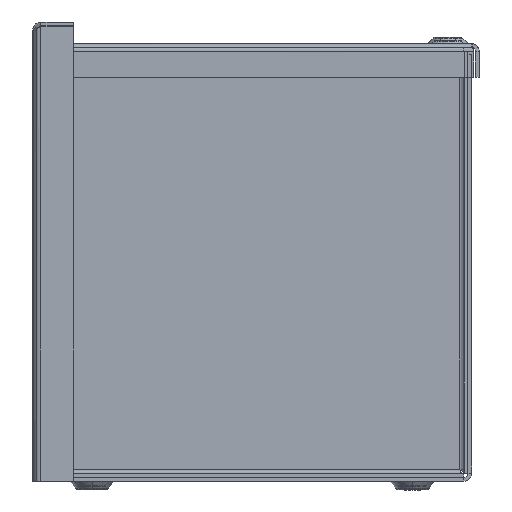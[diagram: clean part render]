
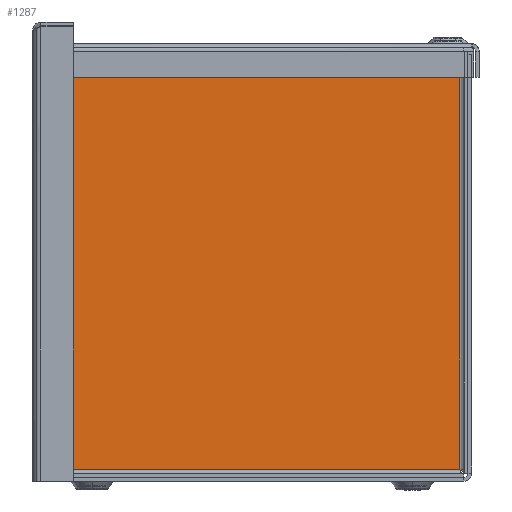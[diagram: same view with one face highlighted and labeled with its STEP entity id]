
A CAD part, left-side view. The second image highlights one B-rep face of the part: STEP entity #1287.
In plain terms, the highlighted planar face has unit normal (-1, 0, 0) as drawn and (0, 0, -1) by its records, which use the part's own axes.
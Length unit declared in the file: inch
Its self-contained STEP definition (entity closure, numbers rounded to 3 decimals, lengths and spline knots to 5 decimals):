
#1160 = EDGE_CURVE ( 'NONE', #1300, #1299, #3404, .T. ) ;
#1163 = ORIENTED_EDGE ( 'NONE', *, *, #2098, .F. ) ;
#1173 = ORIENTED_EDGE ( 'NONE', *, *, #1160, .F. ) ;
#1287 = ADVANCED_FACE ( 'NONE', ( #3715 ), #3714, .T. ) ;
#1288 = EDGE_LOOP ( 'NONE', ( #1291, #1295, #1173, #1163 ) ) ;
#1291 = ORIENTED_EDGE ( 'NONE', *, *, #1292, .F. ) ;
#1292 = EDGE_CURVE ( 'NONE', #1293, #1294, #3709, .T. ) ;
#1293 = VERTEX_POINT ( 'NONE', #3700 ) ;
#1294 = VERTEX_POINT ( 'NONE', #3699 ) ;
#1295 = ORIENTED_EDGE ( 'NONE', *, *, #1297, .F. ) ;
#1297 = EDGE_CURVE ( 'NONE', #1299, #1293, #3697, .T. ) ;
#1299 = VERTEX_POINT ( 'NONE', #3693 ) ;
#1300 = VERTEX_POINT ( 'NONE', #3692 ) ;
#2098 = EDGE_CURVE ( 'NONE', #1294, #1300, #5264, .T. ) ;
#3401 = DIRECTION ( 'NONE',  ( -1., 0., 0. ) ) ;
#3402 = VECTOR ( 'NONE', #3401, 39.37008 ) ;
#3403 = CARTESIAN_POINT ( 'NONE',  ( 3.87093, 3.798, 0. ) ) ;
#3404 = LINE ( 'NONE', #3403, #3402 ) ;
#3692 = CARTESIAN_POINT ( 'NONE',  ( 3.798, 3.798, 0. ) ) ;
#3693 = CARTESIAN_POINT ( 'NONE',  ( -3.798, 3.798, 0. ) ) ;
#3694 = DIRECTION ( 'NONE',  ( 0., -1., 0. ) ) ;
#3695 = VECTOR ( 'NONE', #3694, 39.37008 ) ;
#3696 = CARTESIAN_POINT ( 'NONE',  ( -3.798, 3.87093, 0. ) ) ;
#3697 = LINE ( 'NONE', #3696, #3695 ) ;
#3699 = CARTESIAN_POINT ( 'NONE',  ( 3.798, -3.798, 0. ) ) ;
#3700 = CARTESIAN_POINT ( 'NONE',  ( -3.798, -3.798, 0. ) ) ;
#3701 = DIRECTION ( 'NONE',  ( 1., 0., 0. ) ) ;
#3702 = VECTOR ( 'NONE', #3701, 39.37008 ) ;
#3703 = CARTESIAN_POINT ( 'NONE',  ( -3.87093, -3.798, 0. ) ) ;
#3709 = LINE ( 'NONE', #3703, #3702 ) ;
#3710 = DIRECTION ( 'NONE',  ( -1., 0., 0. ) ) ;
#3711 = DIRECTION ( 'NONE',  ( 0., 0., -1. ) ) ;
#3712 = CARTESIAN_POINT ( 'NONE',  ( -3.95, 3.95, 0. ) ) ;
#3713 = AXIS2_PLACEMENT_3D ( 'NONE', #3712, #3711, #3710 ) ;
#3714 = PLANE ( 'NONE',  #3713 ) ;
#3715 = FACE_OUTER_BOUND ( 'NONE', #1288, .T. ) ;
#5261 = DIRECTION ( 'NONE',  ( 0., 1., 0. ) ) ;
#5262 = VECTOR ( 'NONE', #5261, 39.37008 ) ;
#5263 = CARTESIAN_POINT ( 'NONE',  ( 3.798, -3.87093, 0. ) ) ;
#5264 = LINE ( 'NONE', #5263, #5262 ) ;
